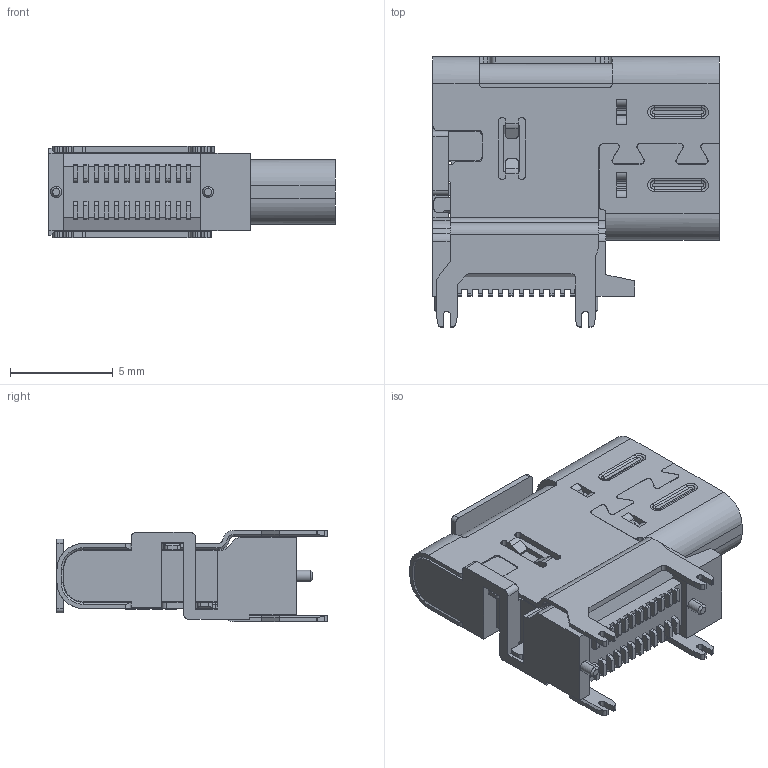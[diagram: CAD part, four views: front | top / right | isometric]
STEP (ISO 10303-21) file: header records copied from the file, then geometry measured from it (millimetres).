
FILE_DESCRIPTION (( 'STEP AP214' ), '1' );
FILE_NAME ('U5494-24PN6.75Z7.2H13.95L.STEP', '2026-10-16T08:34:18', ( '' ), ( '' ), 'SwSTEP 2.0', 'SolidWorks 2024', '' );
FILE_SCHEMA (( 'AUTOMOTIVE_DESIGN' ));
Length unit declared in the file: millimetre
Products named in the file (3): U5494-24PN6.75Z7.2H13.95L; U5494-24PN6.75Z7.2H13.95L(2); PRT0001_1
Assembly tree (2 placements, depth 3):
  U5494-24PN6.75Z7.2H13.95L
    U5494-24PN6.75Z7.2H13.95L(2)
      PRT0001_1
Bounding box: 13.95 x 13.17 x 4.46 mm (x, y, z)
Volume: 389.5 mm3; surface area: 1084.5 mm2
Topology: 1 solids, 1 shells, 1031 faces, 3000 edges, 1970 vertices
Faces by surface type: plane 712, cylinder 257, bspline 33, cone 21, torus 8
Entity records: 35831 total; most frequent: CARTESIAN_POINT 8410, ORIENTED_EDGE 6000, DIRECTION 5360, EDGE_CURVE 3000, LINE 2312, VECTOR 2312, VERTEX_POINT 1970, AXIS2_PLACEMENT_3D 1524
